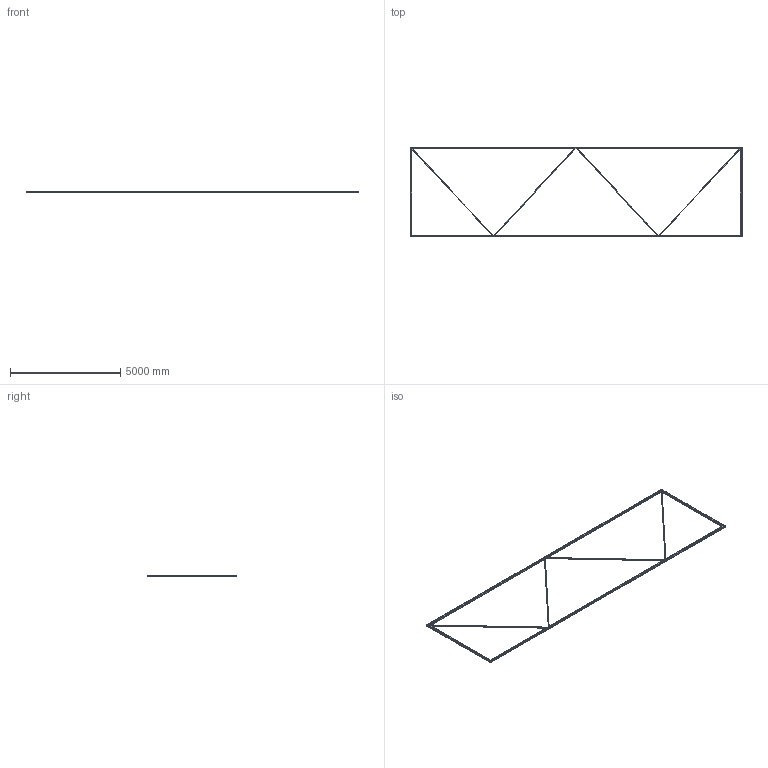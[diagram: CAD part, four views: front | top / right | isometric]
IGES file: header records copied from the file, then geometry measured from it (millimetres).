
Start section: SolidWorks IGES file using analytic representation for surfaces
Global section: file name: C:\Documents and Settings\Pc\Escritorio\Modelos 3D\Capítulo 7 (Vigas)\PRACTICAS PROPUESTAS\P-9\Estructura.IGS; native system: SolidWorks 2010; preprocessor: SolidWorks 2010; author: Pc; date: 100623.114603; units: millimetre
Bounding box: 15080 x 4080 x 80 mm (x, y, z)
Surface area: 27582708.5 mm2 (no closed solid volume)
Topology: 0 solids, 0 shells, 146 faces, 2712 edges, 2712 vertices
Faces by surface type: bspline 82, revolution 64
